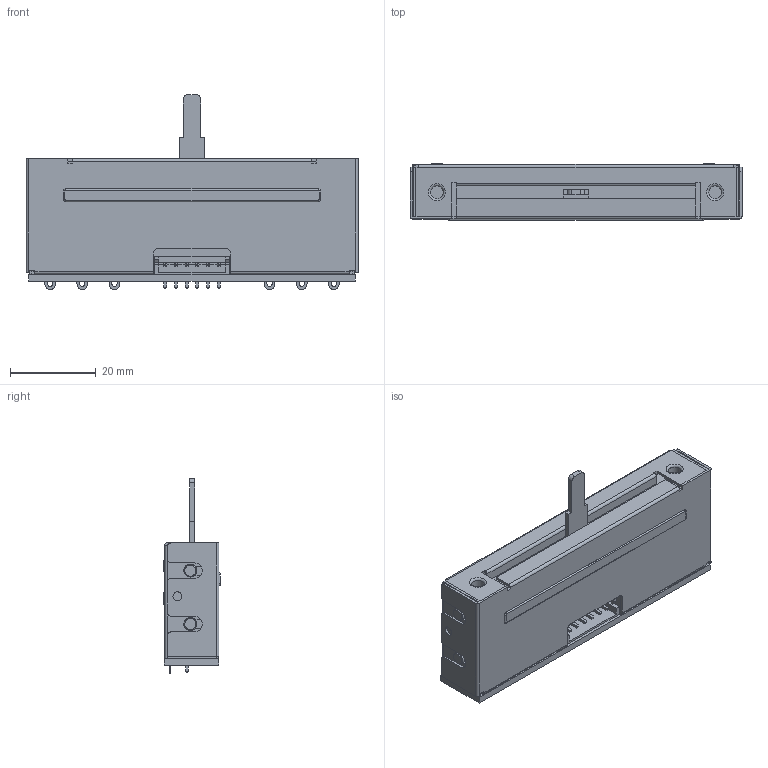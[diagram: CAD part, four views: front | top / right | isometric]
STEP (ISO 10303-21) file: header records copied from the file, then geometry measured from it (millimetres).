
FILE_DESCRIPTION(('FreeCAD Model'),'2;1');
FILE_NAME('Open CASCADE Shape Model','2023-05-08T15:37:09',(''),(''), 'Open CASCADE STEP processor 7.6','FreeCAD','Unknown');
FILE_SCHEMA(('AUTOMOTIVE_DESIGN { 1 0 10303 214 1 1 1 1 }'));
Length unit declared in the file: millimetre
Products named in the file (1): cfx-45l
Bounding box: 77.6 x 13.2 x 45.5 mm (x, y, z)
Volume: 24952.6 mm3; surface area: 12518.6 mm2
Topology: 1 solids, 4 shells, 591 faces, 1510 edges, 948 vertices
Faces by surface type: plane 423, cylinder 148, torus 8, cone 4, revolution 4, bspline 4
Full cylindrical faces by diameter (mm): 1 x6, 1.1 x2, 1.5 x2, 1.6 x5, 2 x2, 2.1 x2, 2.6 x2, 3 x6, 5 x2
Entity records: 39756 total; most frequent: CARTESIAN_POINT 8053, DIRECTION 5176, LINE 3253, VECTOR 3253, ORIENTED_EDGE 3016, PCURVE 3012, DEFINITIONAL_REPRESENTATION 3012, EDGE_CURVE 1506
